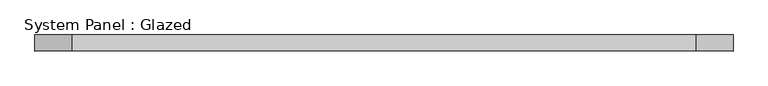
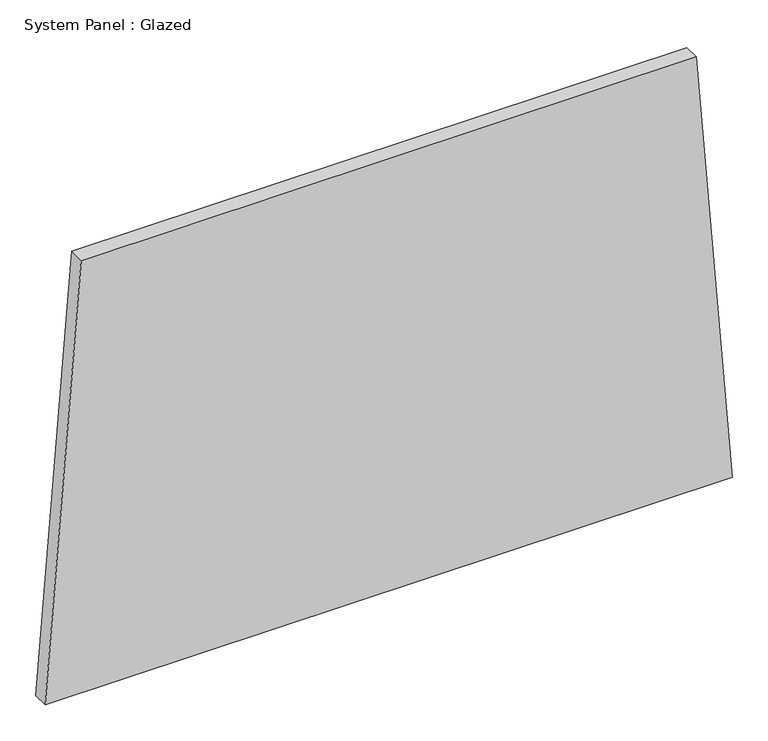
"""IFC4 building model written with IfcOpenShell, lengths in millimetres: plate geometry, System Panel : Glazed."""

from ifc_helpers import new_model, si_unit, frame, origin, place, context, project, spatial, polyline, outline, extrude, source, transform, mapped, element, save


def system_panel_glazed_023fd094(model_context):
    return source(origin(), model_context, "Body", "SweptSolid", [
        extrude(outline(polyline([(0.0, -552.1075977), (0.0, 552.1075977), (734.2389625, 494.1730726), (734.2389625, -494.1730726), (0.0, -552.1075977)])), frame((0.0, 19.05, 0.0), z_axis=(0.0, 1.0, 0.0), x_axis=(0.0, 0.0, 1.0)), (0.0, 0.0, 1.0), 25.4),
    ])


if __name__ == "__main__":
    model = new_model("IFC4")
    model_context = context("Model", 3, world=origin())
    ifc_project = project(units=[si_unit("LENGTHUNIT", "METRE", prefix="MILLI")], contexts=[model_context])
    site = spatial("IfcSite", under=ifc_project)
    building = spatial("IfcBuilding", under=site)
    placement = place(None, origin())
    system_panel_glazed_shape = system_panel_glazed_023fd094(model_context)
    element("IfcPlate", 1, ObjectType="System Panel : Glazed", at=placement, inside=building, context=model_context, shape_type="MappedRepresentation", body=[
        mapped(system_panel_glazed_shape, transform((0.0, 0.0, 0.0), x_axis=(1.0, 0.0, 0.0), y_axis=(0.0, 1.0, 0.0), z_axis=(0.0, 0.0, 1.0))),
    ])
    save(model, "model.ifc")
